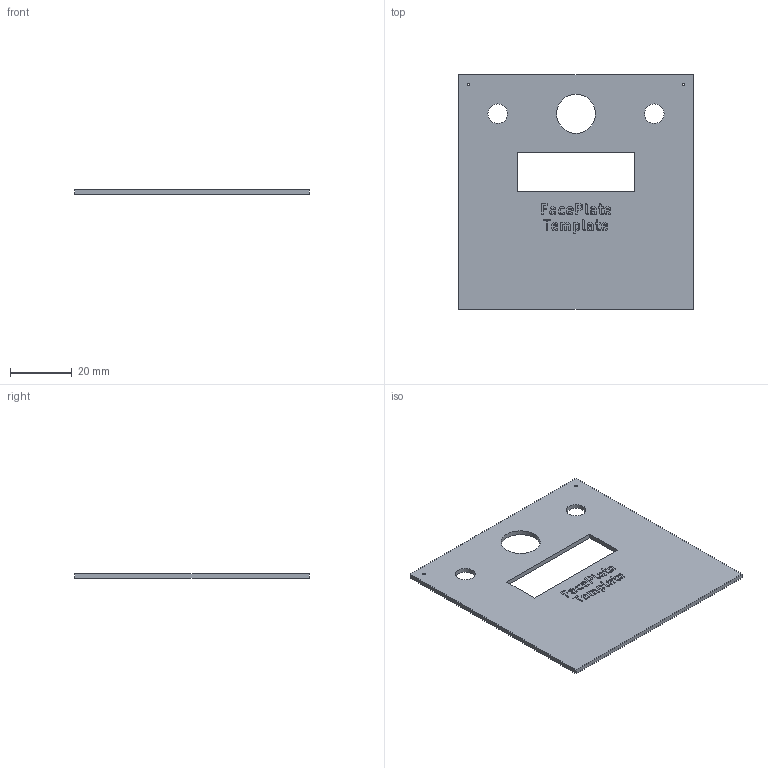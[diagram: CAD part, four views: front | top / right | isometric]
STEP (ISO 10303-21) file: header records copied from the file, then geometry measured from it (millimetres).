
FILE_DESCRIPTION(('KiCad electronic assembly'),'2;1');
FILE_NAME('FPLTMPLT.step','2025-10-11T22:26:47',('Pcbnew'),('Kicad'), 'Open CASCADE STEP processor 7.9','KiCad to STEP converter','Unknown' );
FILE_SCHEMA(('AUTOMOTIVE_DESIGN { 1 0 10303 214 1 1 1 1 }'));
Length unit declared in the file: millimetre
Products named in the file (3): FPLTMPLT 1; FPLTMPLT_silkscreen; FPLTMPLT_PCB
Assembly tree (2 placements, depth 2):
  FPLTMPLT 1
    FPLTMPLT_silkscreen
    FPLTMPLT_PCB
Bounding box: 76.2 x 76.2 x 1.58 mm (x, y, z)
Volume: 7748.6 mm3; surface area: 11058.5 mm2
Topology: 1 solids, 18 shells, 32 faces, 633 edges, 620 vertices
Faces by surface type: plane 27, cylinder 5
Full cylindrical faces by diameter (mm): 0.813 x2, 6.35 x2, 12.7 x1
Entity records: 5694 total; most frequent: CARTESIAN_POINT 1288, DIRECTION 770, ORIENTED_EDGE 672, EDGE_CURVE 633, VERTEX_POINT 620, LINE 566, VECTOR 566, AXIS2_PLACEMENT_3D 102
